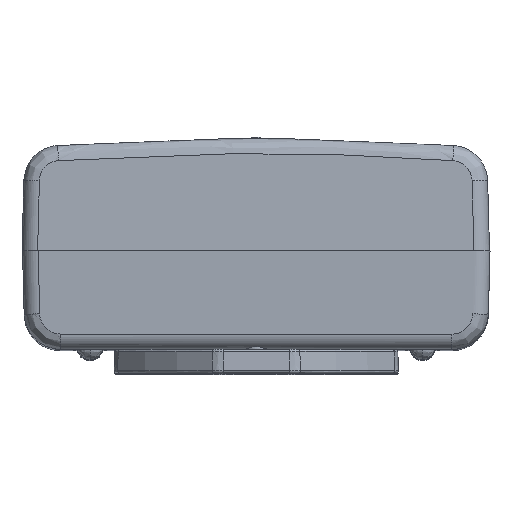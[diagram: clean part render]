
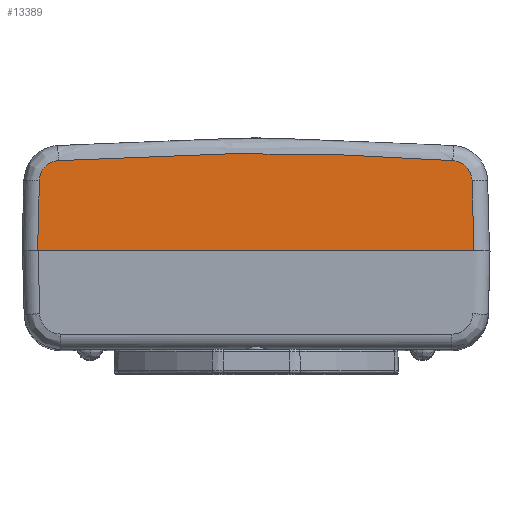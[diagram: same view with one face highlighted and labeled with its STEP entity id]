
A CAD part, top view. The second image highlights one B-rep face of the part: STEP entity #13389.
In plain terms, the highlighted planar face has unit normal (0, 0.026, 1).
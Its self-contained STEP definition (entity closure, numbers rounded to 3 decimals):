
#353 = CARTESIAN_POINT ( 'NONE',  ( 76.06, 2.708, 59.855 ) ) ;
#559 = CARTESIAN_POINT ( 'NONE',  ( -5.194, 19.705, 59.41 ) ) ;
#711 = CARTESIAN_POINT ( 'NONE',  ( -6.662, 18.617, 59.438 ) ) ;
#718 = CARTESIAN_POINT ( 'NONE',  ( -10.941, 2.708, 59.855 ) ) ;
#1516 = LINE ( 'NONE', #12007, #19835 ) ;
#1764 = DIRECTION ( 'NONE',  ( 0., 0.026, 1. ) ) ;
#1959 = EDGE_CURVE ( 'NONE', #20235, #3707, #8975, .T. ) ;
#2236 = ORIENTED_EDGE ( 'NONE', *, *, #12814, .T. ) ;
#2269 = CARTESIAN_POINT ( 'NONE',  ( 73.857, 19.45, 59.416 ) ) ;
#2279 = CARTESIAN_POINT ( 'NONE',  ( -3.878, 20.029, 59.401 ) ) ;
#2343 = CARTESIAN_POINT ( 'NONE',  ( -7.483, 17.084, 59.478 ) ) ;
#2631 = CARTESIAN_POINT ( 'NONE',  ( -7.942, 2.708, 59.855 ) ) ;
#2676 = CARTESIAN_POINT ( 'NONE',  ( -7.59, 16.143, 59.503 ) ) ;
#2973 = ORIENTED_EDGE ( 'NONE', *, *, #8421, .T. ) ;
#3154 = ORIENTED_EDGE ( 'NONE', *, *, #11678, .T. ) ;
#3449 = CARTESIAN_POINT ( 'NONE',  ( 46.747, 21.839, 59.354 ) ) ;
#3628 = CARTESIAN_POINT ( 'NONE',  ( 75.695, 16.635, 59.49 ) ) ;
#3707 = VERTEX_POINT ( 'NONE', #20007 ) ;
#3852 = CARTESIAN_POINT ( 'NONE',  ( -7.216, 17.734, 59.461 ) ) ;
#3995 = CARTESIAN_POINT ( 'NONE',  ( -7.578, 16.622, 59.491 ) ) ;
#5207 = CARTESIAN_POINT ( 'NONE',  ( 75.591, 17.124, 59.477 ) ) ;
#5364 = CARTESIAN_POINT ( 'NONE',  ( -5.219, 19.694, 59.41 ) ) ;
#5373 = VERTEX_POINT ( 'NONE', #2631 ) ;
#5506 = CARTESIAN_POINT ( 'NONE',  ( -4.117, 20.012, 59.402 ) ) ;
#6904 = CARTESIAN_POINT ( 'NONE',  ( -5.139, 19.728, 59.409 ) ) ;
#7597 = VECTOR ( 'NONE', #17858, 1000. ) ;
#7731 = AXIS2_PLACEMENT_3D ( 'NONE', #16042, #1764, #14704 ) ;
#7949 = LINE ( 'NONE', #718, #19661 ) ;
#8421 = EDGE_CURVE ( 'NONE', #5373, #17909, #7949, .T. ) ;
#8521 = CARTESIAN_POINT ( 'NONE',  ( -7.299, 17.542, 59.466 ) ) ;
#8545 = CARTESIAN_POINT ( 'NONE',  ( -3.878, 20.029, 59.401 ) ) ;
#8662 = CARTESIAN_POINT ( 'NONE',  ( -4.862, 19.836, 59.406 ) ) ;
#8808 = CARTESIAN_POINT ( 'NONE',  ( -6.129, 19.174, 59.424 ) ) ;
#8841 = DIRECTION ( 'NONE',  ( -0.026, -0.999, 0.026 ) ) ;
#8975 = B_SPLINE_CURVE_WITH_KNOTS ( 'NONE', 3,
 ( #11959, #18459, #19969, #2269, #16752, #16680, #19828, #5207, #3628, #13634 ),
 .UNSPECIFIED., .F., .F.,
 ( 4, 2, 2, 2, 4 ),
 ( 0., 0.25, 0.5, 0.75, 1. ),
 .UNSPECIFIED. ) ;
#9491 = EDGE_LOOP ( 'NONE', ( #2973, #2236, #18994, #10419, #21003, #3154 ) ) ;
#9891 = CARTESIAN_POINT ( 'NONE',  ( 71.995, 20.03, 59.401 ) ) ;
#10419 = ORIENTED_EDGE ( 'NONE', *, *, #19907, .F. ) ;
#10424 = CARTESIAN_POINT ( 'NONE',  ( -7.28, 17.587, 59.465 ) ) ;
#11458 = VERTEX_POINT ( 'NONE', #2676 ) ;
#11678 = EDGE_CURVE ( 'NONE', #11458, #5373, #1516, .T. ) ;
#11959 = CARTESIAN_POINT ( 'NONE',  ( 71.995, 20.03, 59.401 ) ) ;
#12007 = CARTESIAN_POINT ( 'NONE',  ( -7.59, 16.143, 59.503 ) ) ;
#12050 = CARTESIAN_POINT ( 'NONE',  ( -7.292, 17.558, 59.466 ) ) ;
#12263 = DIRECTION ( 'NONE',  ( 1., 0., 0. ) ) ;
#12489 = B_SPLINE_CURVE_WITH_KNOTS ( 'NONE', 3,
 ( #8545, #18269, #3449, #9891 ),
 .UNSPECIFIED., .F., .F.,
 ( 4, 4 ),
 ( 0., 1. ),
 .UNSPECIFIED. ) ;
#12814 = EDGE_CURVE ( 'NONE', #17909, #3707, #19797, .T. ) ;
#13389 = ADVANCED_FACE ( 'NONE', ( #15939 ), #17684, .T. ) ;
#13573 = CARTESIAN_POINT ( 'NONE',  ( -5.716, 19.467, 59.416 ) ) ;
#13634 = CARTESIAN_POINT ( 'NONE',  ( 75.708, 16.145, 59.503 ) ) ;
#14704 = DIRECTION ( 'NONE',  ( 0., -1., 0.026 ) ) ;
#15138 = CARTESIAN_POINT ( 'NONE',  ( -7.261, 17.632, 59.464 ) ) ;
#15774 = CARTESIAN_POINT ( 'NONE',  ( 71.995, 20.03, 59.401 ) ) ;
#15893 = B_SPLINE_CURVE_WITH_KNOTS ( 'NONE', 3,
 ( #2279, #5506, #18534, #8662, #20051, #6904, #559, #5364, #13573, #8808, #711, #20202, #20123, #3852, #15138, #10424, #12050, #8521, #2343, #3995, #19902 ),
 .UNSPECIFIED., .F., .F.,
 ( 4, 1, 1, 1, 2, 2, 2, 1, 1, 1, 1, 2, 2, 4 ),
 ( 0., 0.125, 0.188, 0.219, 0.234, 0.25, 0.5, 0.625, 0.688, 0.719, 0.734, 0.742, 0.75, 1. ),
 .UNSPECIFIED. ) ;
#15939 = FACE_OUTER_BOUND ( 'NONE', #9491, .T. ) ;
#16042 = CARTESIAN_POINT ( 'NONE',  ( -10.941, 2.708, 59.855 ) ) ;
#16380 = CARTESIAN_POINT ( 'NONE',  ( 76.06, 2.708, 59.855 ) ) ;
#16680 = CARTESIAN_POINT ( 'NONE',  ( 74.941, 18.448, 59.443 ) ) ;
#16752 = CARTESIAN_POINT ( 'NONE',  ( 74.262, 19.158, 59.424 ) ) ;
#17380 = VERTEX_POINT ( 'NONE', #17635 ) ;
#17635 = CARTESIAN_POINT ( 'NONE',  ( -3.878, 20.029, 59.401 ) ) ;
#17684 = PLANE ( 'NONE',  #7731 ) ;
#17858 = DIRECTION ( 'NONE',  ( -0.026, 0.999, -0.026 ) ) ;
#17909 = VERTEX_POINT ( 'NONE', #353 ) ;
#18029 = EDGE_CURVE ( 'NONE', #17380, #11458, #15893, .T. ) ;
#18269 = CARTESIAN_POINT ( 'NONE',  ( 21.37, 21.838, 59.354 ) ) ;
#18459 = CARTESIAN_POINT ( 'NONE',  ( 72.485, 19.994, 59.402 ) ) ;
#18534 = CARTESIAN_POINT ( 'NONE',  ( -4.467, 19.956, 59.403 ) ) ;
#18994 = ORIENTED_EDGE ( 'NONE', *, *, #1959, .F. ) ;
#19661 = VECTOR ( 'NONE', #12263, 1000. ) ;
#19797 = LINE ( 'NONE', #16380, #7597 ) ;
#19828 = CARTESIAN_POINT ( 'NONE',  ( 75.214, 18.03, 59.454 ) ) ;
#19835 = VECTOR ( 'NONE', #8841, 1000. ) ;
#19902 = CARTESIAN_POINT ( 'NONE',  ( -7.59, 16.143, 59.503 ) ) ;
#19907 = EDGE_CURVE ( 'NONE', #17380, #20235, #12489, .T. ) ;
#19969 = CARTESIAN_POINT ( 'NONE',  ( 72.968, 19.868, 59.406 ) ) ;
#20007 = CARTESIAN_POINT ( 'NONE',  ( 75.708, 16.145, 59.503 ) ) ;
#20051 = CARTESIAN_POINT ( 'NONE',  ( -5.056, 19.763, 59.408 ) ) ;
#20123 = CARTESIAN_POINT ( 'NONE',  ( -7.119, 17.934, 59.456 ) ) ;
#20202 = CARTESIAN_POINT ( 'NONE',  ( -6.897, 18.318, 59.446 ) ) ;
#20235 = VERTEX_POINT ( 'NONE', #15774 ) ;
#21003 = ORIENTED_EDGE ( 'NONE', *, *, #18029, .T. ) ;
